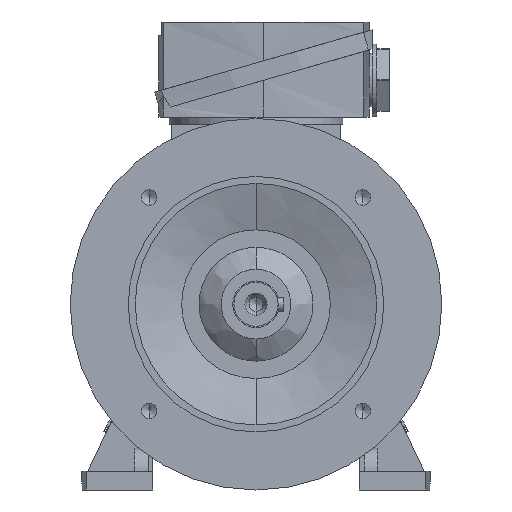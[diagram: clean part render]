
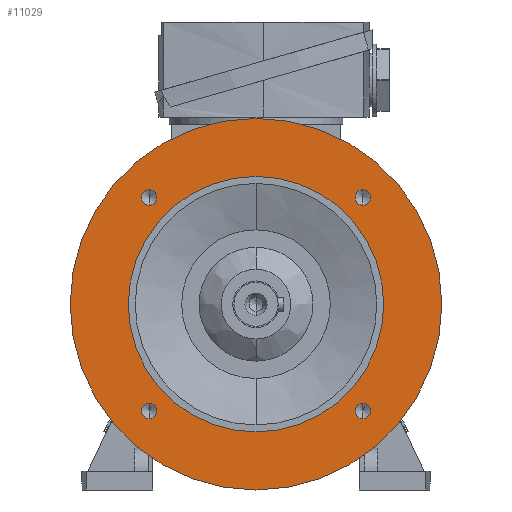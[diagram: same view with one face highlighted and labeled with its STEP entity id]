
A CAD part, left-side view. The second image highlights one B-rep face of the part: STEP entity #11029.
In plain terms, the highlighted planar face has unit normal (-1, 0, 0).
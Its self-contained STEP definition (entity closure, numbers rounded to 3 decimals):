
#392 = DIRECTION ( 'NONE',  ( -1., 0., 0. ) ) ;
#665 = CIRCLE ( 'NONE', #6993, 3.325 ) ;
#730 = DIRECTION ( 'NONE',  ( 1., 0., 0. ) ) ;
#972 = AXIS2_PLACEMENT_3D ( 'NONE', #10824, #23403, #12653 ) ;
#1649 = ORIENTED_EDGE ( 'NONE', *, *, #8453, .T. ) ;
#1815 = ORIENTED_EDGE ( 'NONE', *, *, #18191, .T. ) ;
#2055 = CIRCLE ( 'NONE', #22808, 55. ) ;
#2426 = CIRCLE ( 'NONE', #16833, 3.325 ) ;
#2842 = DIRECTION ( 'NONE',  ( 1., 0., 0. ) ) ;
#2849 = CARTESIAN_POINT ( 'NONE',  ( -27., -45.962, 45.962 ) ) ;
#2896 = CARTESIAN_POINT ( 'NONE',  ( -27., -45.962, 45.962 ) ) ;
#3087 = EDGE_LOOP ( 'NONE', ( #21778, #1815 ) ) ;
#4298 = EDGE_CURVE ( 'NONE', #16111, #22103, #17280, .T. ) ;
#4626 = EDGE_CURVE ( 'NONE', #20346, #7721, #13919, .T. ) ;
#4673 = DIRECTION ( 'NONE',  ( 0., 0., -1. ) ) ;
#4729 = DIRECTION ( 'NONE',  ( 0., 0., -1. ) ) ;
#4805 = CARTESIAN_POINT ( 'NONE',  ( -27., -45.962, -45.962 ) ) ;
#5141 = CIRCLE ( 'NONE', #6392, 80. ) ;
#5148 = CIRCLE ( 'NONE', #972, 3.325 ) ;
#5187 = EDGE_LOOP ( 'NONE', ( #5802, #7786 ) ) ;
#5208 = AXIS2_PLACEMENT_3D ( 'NONE', #11313, #392, #13160 ) ;
#5583 = EDGE_CURVE ( 'NONE', #7721, #20346, #5141, .T. ) ;
#5648 = CARTESIAN_POINT ( 'NONE',  ( -27., -45.962, 49.287 ) ) ;
#5789 = DIRECTION ( 'NONE',  ( 1., 0., 0. ) ) ;
#5802 = ORIENTED_EDGE ( 'NONE', *, *, #5583, .F. ) ;
#6004 = CARTESIAN_POINT ( 'NONE',  ( -27., -45.962, -42.637 ) ) ;
#6022 = AXIS2_PLACEMENT_3D ( 'NONE', #2849, #15590, #4673 ) ;
#6027 = CARTESIAN_POINT ( 'NONE',  ( -27., -45.962, -45.962 ) ) ;
#6392 = AXIS2_PLACEMENT_3D ( 'NONE', #9273, #21902, #11091 ) ;
#6484 = VERTEX_POINT ( 'NONE', #9082 ) ;
#6568 = ORIENTED_EDGE ( 'NONE', *, *, #21056, .T. ) ;
#6666 = DIRECTION ( 'NONE',  ( 0., 0., -1. ) ) ;
#6786 = CARTESIAN_POINT ( 'NONE',  ( -27., 0., -80. ) ) ;
#6906 = CARTESIAN_POINT ( 'NONE',  ( -27., 0., 0. ) ) ;
#6993 = AXIS2_PLACEMENT_3D ( 'NONE', #6027, #18737, #7852 ) ;
#7170 = VERTEX_POINT ( 'NONE', #13984 ) ;
#7232 = CARTESIAN_POINT ( 'NONE',  ( -27., 45.962, -45.962 ) ) ;
#7721 = VERTEX_POINT ( 'NONE', #10983 ) ;
#7786 = ORIENTED_EDGE ( 'NONE', *, *, #4626, .F. ) ;
#7852 = DIRECTION ( 'NONE',  ( 0., 0., -1. ) ) ;
#8089 = ORIENTED_EDGE ( 'NONE', *, *, #14634, .T. ) ;
#8311 = ORIENTED_EDGE ( 'NONE', *, *, #14456, .T. ) ;
#8418 = CIRCLE ( 'NONE', #9981, 3.325 ) ;
#8453 = EDGE_CURVE ( 'NONE', #6484, #9866, #17122, .T. ) ;
#8579 = CARTESIAN_POINT ( 'NONE',  ( -27., 0., 0. ) ) ;
#8714 = DIRECTION ( 'NONE',  ( 0., 0., 1. ) ) ;
#8754 = AXIS2_PLACEMENT_3D ( 'NONE', #2896, #15640, #4729 ) ;
#9050 = DIRECTION ( 'NONE',  ( 0., 0., -1. ) ) ;
#9082 = CARTESIAN_POINT ( 'NONE',  ( -27., 45.962, -42.637 ) ) ;
#9263 = CIRCLE ( 'NONE', #8754, 3.325 ) ;
#9273 = CARTESIAN_POINT ( 'NONE',  ( -27., 0., 0. ) ) ;
#9633 = VERTEX_POINT ( 'NONE', #21051 ) ;
#9866 = VERTEX_POINT ( 'NONE', #18273 ) ;
#9981 = AXIS2_PLACEMENT_3D ( 'NONE', #4805, #17550, #6666 ) ;
#10380 = ORIENTED_EDGE ( 'NONE', *, *, #4298, .T. ) ;
#10387 = DIRECTION ( 'NONE',  ( 0., 0., 1. ) ) ;
#10499 = ORIENTED_EDGE ( 'NONE', *, *, #13776, .T. ) ;
#10824 = CARTESIAN_POINT ( 'NONE',  ( -27., 45.962, -45.962 ) ) ;
#10983 = CARTESIAN_POINT ( 'NONE',  ( -27., 0., 80. ) ) ;
#11029 = ADVANCED_FACE ( 'NONE', ( #19881, #20294, #19779, #19602, #19529, #19471 ), #20369, .T. ) ;
#11091 = DIRECTION ( 'NONE',  ( 0., 0., 1. ) ) ;
#11313 = CARTESIAN_POINT ( 'NONE',  ( -27., 0., 67.5 ) ) ;
#11594 = EDGE_LOOP ( 'NONE', ( #19174, #6568 ) ) ;
#11639 = CARTESIAN_POINT ( 'NONE',  ( -27., 0., 0. ) ) ;
#12284 = AXIS2_PLACEMENT_3D ( 'NONE', #16683, #5789, #18523 ) ;
#12653 = DIRECTION ( 'NONE',  ( 0., 0., -1. ) ) ;
#12841 = ORIENTED_EDGE ( 'NONE', *, *, #14278, .T. ) ;
#12903 = CARTESIAN_POINT ( 'NONE',  ( -27., 0., 55. ) ) ;
#13065 = AXIS2_PLACEMENT_3D ( 'NONE', #11639, #730, #13476 ) ;
#13160 = DIRECTION ( 'NONE',  ( 0., 0., 1. ) ) ;
#13451 = VERTEX_POINT ( 'NONE', #5648 ) ;
#13476 = DIRECTION ( 'NONE',  ( 0., 0., 1. ) ) ;
#13752 = CARTESIAN_POINT ( 'NONE',  ( -27., 45.962, 45.962 ) ) ;
#13776 = EDGE_CURVE ( 'NONE', #13451, #7170, #15790, .T. ) ;
#13919 = CIRCLE ( 'NONE', #13065, 80. ) ;
#13984 = CARTESIAN_POINT ( 'NONE',  ( -27., -45.962, 42.637 ) ) ;
#14278 = EDGE_CURVE ( 'NONE', #7170, #13451, #9263, .T. ) ;
#14312 = EDGE_CURVE ( 'NONE', #17124, #22208, #8418, .T. ) ;
#14456 = EDGE_CURVE ( 'NONE', #9866, #6484, #5148, .T. ) ;
#14571 = EDGE_CURVE ( 'NONE', #19486, #9633, #2426, .T. ) ;
#14634 = EDGE_CURVE ( 'NONE', #22103, #16111, #2055, .T. ) ;
#14655 = CARTESIAN_POINT ( 'NONE',  ( -27., -45.962, -49.287 ) ) ;
#14749 = AXIS2_PLACEMENT_3D ( 'NONE', #6906, #19622, #8714 ) ;
#14882 = CARTESIAN_POINT ( 'NONE',  ( -27., 0., -55. ) ) ;
#15583 = DIRECTION ( 'NONE',  ( 0., 0., -1. ) ) ;
#15590 = DIRECTION ( 'NONE',  ( 1., 0., 0. ) ) ;
#15640 = DIRECTION ( 'NONE',  ( 1., 0., 0. ) ) ;
#15726 = AXIS2_PLACEMENT_3D ( 'NONE', #7232, #19943, #9050 ) ;
#15790 = CIRCLE ( 'NONE', #6022, 3.325 ) ;
#16111 = VERTEX_POINT ( 'NONE', #14882 ) ;
#16175 = EDGE_LOOP ( 'NONE', ( #8311, #1649 ) ) ;
#16683 = CARTESIAN_POINT ( 'NONE',  ( -27., 45.962, 45.962 ) ) ;
#16833 = AXIS2_PLACEMENT_3D ( 'NONE', #13752, #2842, #15583 ) ;
#17122 = CIRCLE ( 'NONE', #15726, 3.325 ) ;
#17124 = VERTEX_POINT ( 'NONE', #14655 ) ;
#17280 = CIRCLE ( 'NONE', #14749, 55. ) ;
#17550 = DIRECTION ( 'NONE',  ( 1., 0., 0. ) ) ;
#18191 = EDGE_CURVE ( 'NONE', #9633, #19486, #21965, .T. ) ;
#18273 = CARTESIAN_POINT ( 'NONE',  ( -27., 45.962, -49.287 ) ) ;
#18523 = DIRECTION ( 'NONE',  ( 0., 0., -1. ) ) ;
#18737 = DIRECTION ( 'NONE',  ( 1., 0., 0. ) ) ;
#19174 = ORIENTED_EDGE ( 'NONE', *, *, #14312, .T. ) ;
#19471 = FACE_BOUND ( 'NONE', #22775, .T. ) ;
#19486 = VERTEX_POINT ( 'NONE', #20988 ) ;
#19529 = FACE_BOUND ( 'NONE', #11594, .T. ) ;
#19602 = FACE_BOUND ( 'NONE', #16175, .T. ) ;
#19622 = DIRECTION ( 'NONE',  ( 1., 0., 0. ) ) ;
#19779 = FACE_BOUND ( 'NONE', #3087, .T. ) ;
#19881 = FACE_BOUND ( 'NONE', #23413, .T. ) ;
#19943 = DIRECTION ( 'NONE',  ( 1., 0., 0. ) ) ;
#20294 = FACE_OUTER_BOUND ( 'NONE', #5187, .T. ) ;
#20346 = VERTEX_POINT ( 'NONE', #6786 ) ;
#20369 = PLANE ( 'NONE',  #5208 ) ;
#20988 = CARTESIAN_POINT ( 'NONE',  ( -27., 45.962, 42.637 ) ) ;
#21051 = CARTESIAN_POINT ( 'NONE',  ( -27., 45.962, 49.287 ) ) ;
#21056 = EDGE_CURVE ( 'NONE', #22208, #17124, #665, .T. ) ;
#21251 = DIRECTION ( 'NONE',  ( 1., 0., 0. ) ) ;
#21778 = ORIENTED_EDGE ( 'NONE', *, *, #14571, .T. ) ;
#21902 = DIRECTION ( 'NONE',  ( 1., 0., 0. ) ) ;
#21965 = CIRCLE ( 'NONE', #12284, 3.325 ) ;
#22103 = VERTEX_POINT ( 'NONE', #12903 ) ;
#22208 = VERTEX_POINT ( 'NONE', #6004 ) ;
#22775 = EDGE_LOOP ( 'NONE', ( #12841, #10499 ) ) ;
#22808 = AXIS2_PLACEMENT_3D ( 'NONE', #8579, #21251, #10387 ) ;
#23403 = DIRECTION ( 'NONE',  ( 1., 0., 0. ) ) ;
#23413 = EDGE_LOOP ( 'NONE', ( #8089, #10380 ) ) ;
